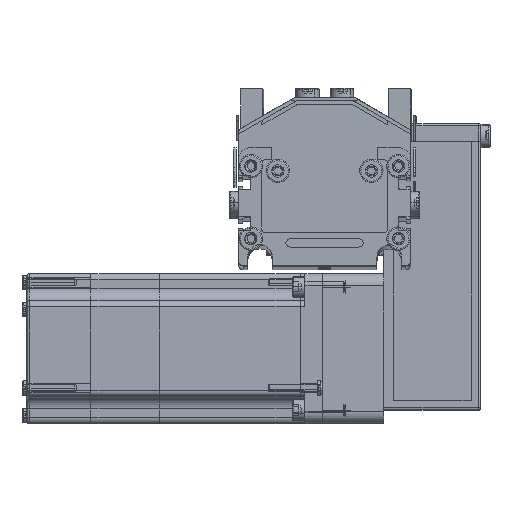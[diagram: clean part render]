
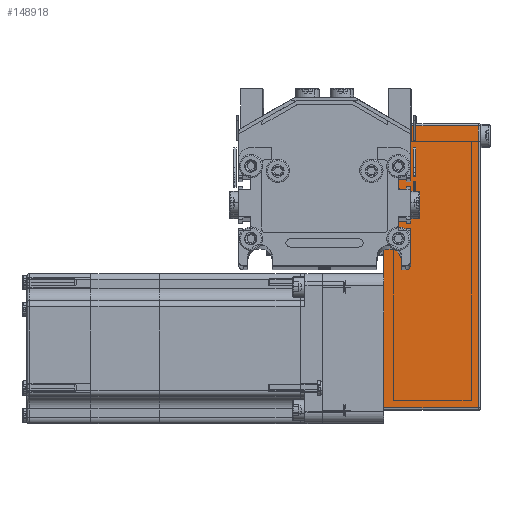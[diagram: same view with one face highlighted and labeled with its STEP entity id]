
A CAD part, top view. The second image highlights one B-rep face of the part: STEP entity #148918.
In plain terms, the highlighted planar face has unit normal (0, 0, 1) as drawn and (0, -1, 0) by its records, which use the part's own axes.
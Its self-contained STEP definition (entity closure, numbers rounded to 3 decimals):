
#12005 = DIRECTION ( 'NONE',  ( -1., 0., 0. ) ) ;
#12006 = VECTOR ( 'NONE', #12005, 1000. ) ;
#12273 = LINE ( 'NONE', #13022, #13010 ) ;
#12989 = DIRECTION ( 'NONE',  ( 0., 0., -1. ) ) ;
#13010 = VECTOR ( 'NONE', #12989, 1000. ) ;
#13022 = CARTESIAN_POINT ( 'NONE',  ( -49., -25., 39.5 ) ) ;
#13254 = CARTESIAN_POINT ( 'NONE',  ( 65.5, -25., 0. ) ) ;
#13358 = CARTESIAN_POINT ( 'NONE',  ( 65.5, -25., 38.5 ) ) ;
#13364 = LINE ( 'NONE', #13401, #13400 ) ;
#13398 = DIRECTION ( 'NONE',  ( 1., 0., 0. ) ) ;
#13400 = VECTOR ( 'NONE', #13398, 1000. ) ;
#13401 = CARTESIAN_POINT ( 'NONE',  ( -50., -25., 0. ) ) ;
#13780 = PLANE ( 'NONE',  #13801 ) ;
#13788 = DIRECTION ( 'NONE',  ( 0., 0., 1. ) ) ;
#13789 = VECTOR ( 'NONE', #13788, 1000. ) ;
#13790 = CARTESIAN_POINT ( 'NONE',  ( 65.5, -25., 39.5 ) ) ;
#13791 = LINE ( 'NONE', #13790, #13789 ) ;
#13792 = CARTESIAN_POINT ( 'NONE',  ( -49., -25., 38.5 ) ) ;
#13801 = AXIS2_PLACEMENT_3D ( 'NONE', #13830, #13829, #13828 ) ;
#13825 = CARTESIAN_POINT ( 'NONE',  ( -50., -25., 38.5 ) ) ;
#13826 = LINE ( 'NONE', #13825, #12006 ) ;
#13828 = DIRECTION ( 'NONE',  ( 0., 0., 1. ) ) ;
#13829 = DIRECTION ( 'NONE',  ( 0., 1., 0. ) ) ;
#13830 = CARTESIAN_POINT ( 'NONE',  ( -50., -25., 39.5 ) ) ;
#13837 = FACE_OUTER_BOUND ( 'NONE', #148913, .T. ) ;
#13877 = CARTESIAN_POINT ( 'NONE',  ( -49., -25., 0. ) ) ;
#148341 = ORIENTED_EDGE ( 'NONE', *, *, #148924, .T. ) ;
#148437 = VERTEX_POINT ( 'NONE', #13254 ) ;
#148531 = VERTEX_POINT ( 'NONE', #13358 ) ;
#148548 = EDGE_CURVE ( 'NONE', #148933, #148437, #13364, .T. ) ;
#148857 = EDGE_CURVE ( 'NONE', #148437, #148531, #13791, .T. ) ;
#148858 = ORIENTED_EDGE ( 'NONE', *, *, #148548, .T. ) ;
#148864 = ORIENTED_EDGE ( 'NONE', *, *, #148923, .T. ) ;
#148913 = EDGE_LOOP ( 'NONE', ( #148341, #148864, #148858, #149242 ) ) ;
#148918 = ADVANCED_FACE ( 'NONE', ( #13837 ), #13780, .F. ) ;
#148919 = VERTEX_POINT ( 'NONE', #13792 ) ;
#148923 = EDGE_CURVE ( 'NONE', #148919, #148933, #12273, .T. ) ;
#148924 = EDGE_CURVE ( 'NONE', #148531, #148919, #13826, .T. ) ;
#148933 = VERTEX_POINT ( 'NONE', #13877 ) ;
#149242 = ORIENTED_EDGE ( 'NONE', *, *, #148857, .T. ) ;
